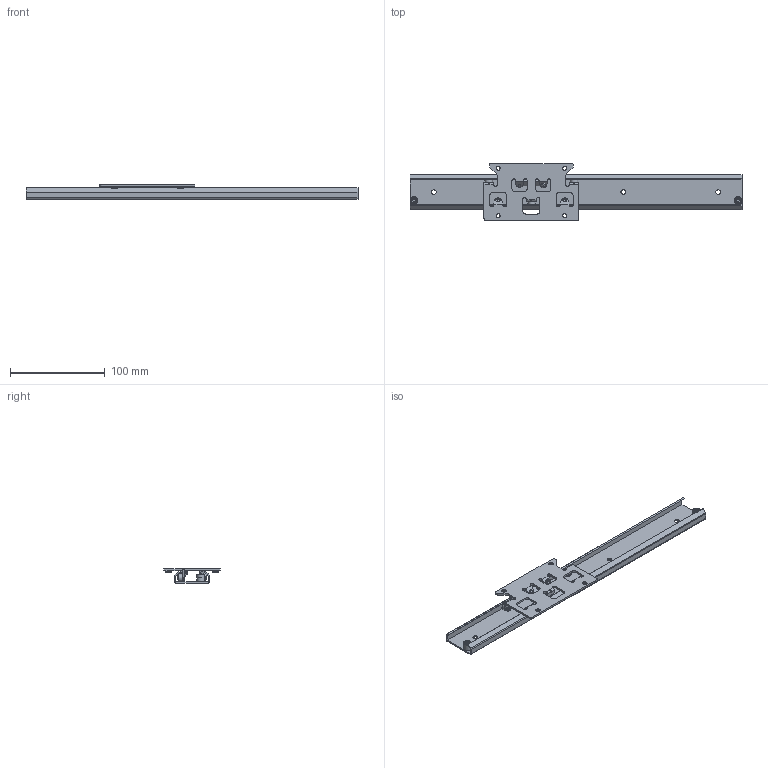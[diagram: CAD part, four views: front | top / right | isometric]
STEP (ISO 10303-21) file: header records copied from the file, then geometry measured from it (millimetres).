
FILE_DESCRIPTION((''),'1');
FILE_NAME('H:/図庫/国内ﾕﾆｯﾄ/ｽﾗｲﾄﾞ/ホームページ用ＣＡＤ図面/3D/37SW/stp', '2018-10-22T23:31:36',(''), (''), 'KCM Version 1.1.1442.0', 'Kubotek KeyCreator', '');
FILE_SCHEMA(('AUTOMOTIVE_DESIGN'));
Length unit declared in the file: millimetre
Bounding box: 350 x 60 x 14.8 mm (x, y, z)
Surface area: 58610.8 mm2 (no closed solid volume)
Topology: 0 solids, 607 shells, 607 faces, 2395 edges, 2094 vertices
Faces by surface type: plane 250, cone 170, cylinder 132, torus 48, bspline 6, sphere 1
Full cylindrical faces by diameter (mm): 2.3 x6, 2.44 x7, 3 x21, 3.5 x1, 4 x7, 4.03 x6, 4.5 x6, 5 x6, 5.5 x2, 5.6 x3, 6 x5, 8 x6, 8.2 x2
Entity records: 26425 total; most frequent: CARTESIAN_POINT 5424, DIRECTION 4717, ORIENTED_EDGE 2696, EDGE_CURVE 2394, VERTEX_POINT 2087, AXIS2_PLACEMENT_3D 1836, CIRCLE 1200, VECTOR 1045
